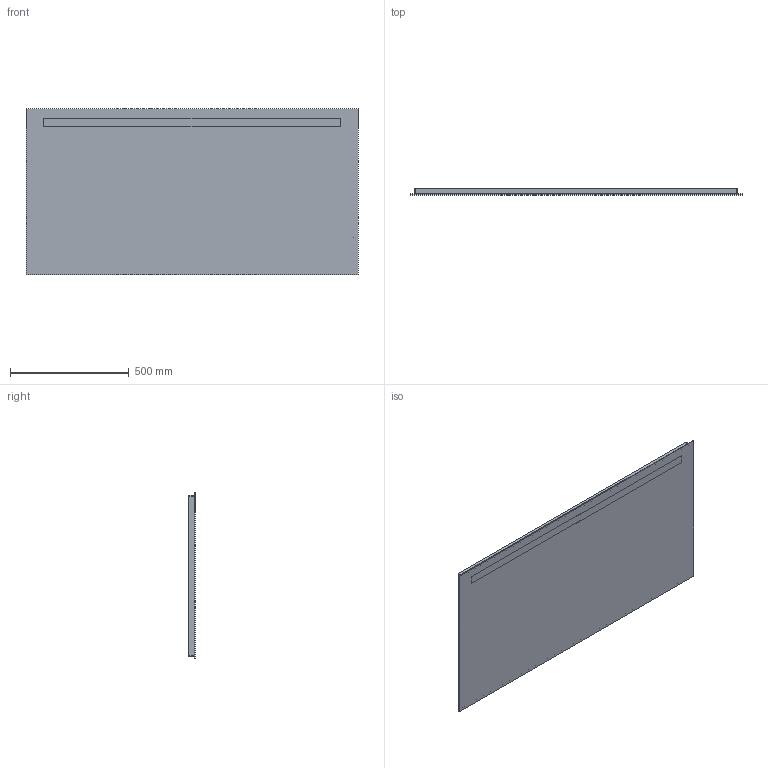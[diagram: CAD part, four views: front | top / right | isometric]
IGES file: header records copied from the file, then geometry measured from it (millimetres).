
Global section: file name: 502811; native system: Autodesk Inventor 2021; preprocessor: unknown; author: JANAN; date: 20221202.151426; units: millimetre
Bounding box: 1400 x 26 x 700 mm (x, y, z)
Volume: 24259043.9 mm3; surface area: 3917293.9 mm2
Topology: 2 solids, 2 shells, 29 faces, 68 edges, 48 vertices
Faces by surface type: bspline 29
